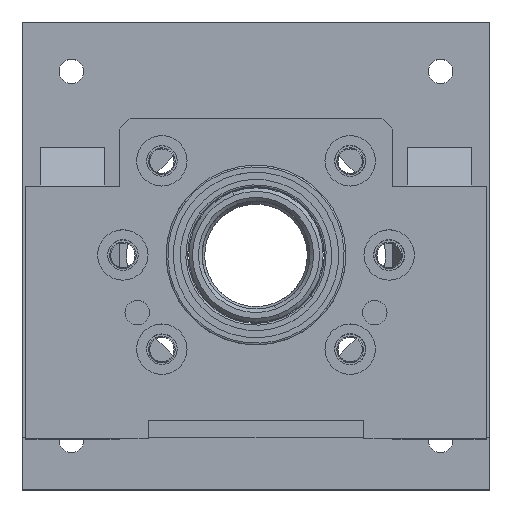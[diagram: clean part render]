
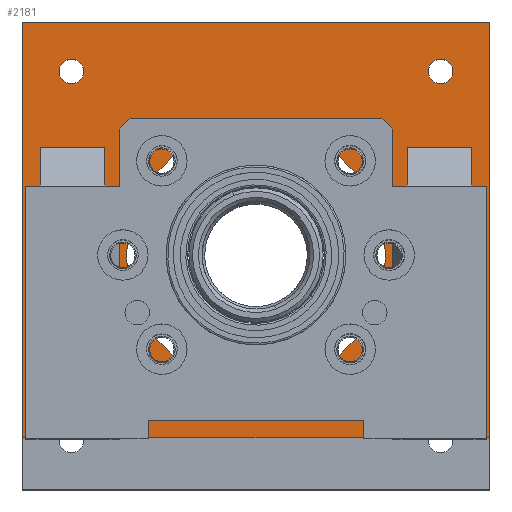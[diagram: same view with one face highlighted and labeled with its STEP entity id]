
A CAD part, top view. The second image highlights one B-rep face of the part: STEP entity #2181.
In plain terms, the highlighted planar face has unit normal (0, 0, 1).
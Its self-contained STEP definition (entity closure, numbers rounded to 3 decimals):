
#1 = EDGE_CURVE ( 'NONE', #3481, #273, #5832, .T. ) ;
#86 = CARTESIAN_POINT ( 'NONE',  ( -51.265, 51.265, 20. ) ) ;
#175 = VERTEX_POINT ( 'NONE', #6333 ) ;
#178 = VECTOR ( 'NONE', #8014, 1000. ) ;
#230 = DIRECTION ( 'NONE',  ( 0., -1., 0. ) ) ;
#250 = VERTEX_POINT ( 'NONE', #8074 ) ;
#273 = VERTEX_POINT ( 'NONE', #2761 ) ;
#284 = DIRECTION ( 'NONE',  ( 0., 0., 1. ) ) ;
#309 = EDGE_CURVE ( 'NONE', #5001, #8623, #7571, .T. ) ;
#316 = ORIENTED_EDGE ( 'NONE', *, *, #3236, .F. ) ;
#356 = CARTESIAN_POINT ( 'NONE',  ( 60., -50.5, 20. ) ) ;
#373 = EDGE_CURVE ( 'NONE', #6790, #6810, #7363, .T. ) ;
#464 = CARTESIAN_POINT ( 'NONE',  ( 47.865, 51.265, 20. ) ) ;
#632 = VERTEX_POINT ( 'NONE', #8566 ) ;
#771 = VECTOR ( 'NONE', #6224, 1000. ) ;
#784 = LINE ( 'NONE', #4125, #4316 ) ;
#790 = DIRECTION ( 'NONE',  ( 1., 0., 0. ) ) ;
#883 = DIRECTION ( 'NONE',  ( 1., 0., 0. ) ) ;
#944 = CARTESIAN_POINT ( 'NONE',  ( -60., 8., 20. ) ) ;
#1001 = DIRECTION ( 'NONE',  ( -1., 0., 0. ) ) ;
#1316 = CARTESIAN_POINT ( 'NONE',  ( -51.265, 51.265, 20. ) ) ;
#1391 = EDGE_CURVE ( 'NONE', #250, #5001, #7346, .T. ) ;
#1400 = CARTESIAN_POINT ( 'NONE',  ( 0., 0., 20. ) ) ;
#1406 = CARTESIAN_POINT ( 'NONE',  ( -42., 30., 20. ) ) ;
#1489 = CARTESIAN_POINT ( 'NONE',  ( -36., 0., 20. ) ) ;
#1504 = DIRECTION ( 'NONE',  ( 0., 1., 0. ) ) ;
#1554 = CARTESIAN_POINT ( 'NONE',  ( -65., 65., 20. ) ) ;
#1603 = FACE_BOUND ( 'NONE', #6589, .T. ) ;
#1684 = CARTESIAN_POINT ( 'NONE',  ( -60., 30., 20. ) ) ;
#1701 = EDGE_CURVE ( 'NONE', #175, #6160, #6999, .T. ) ;
#1832 = AXIS2_PLACEMENT_3D ( 'NONE', #4617, #4014, #8528 ) ;
#1849 = ORIENTED_EDGE ( 'NONE', *, *, #8732, .F. ) ;
#1941 = CARTESIAN_POINT ( 'NONE',  ( -65., 30., 20. ) ) ;
#1957 = VERTEX_POINT ( 'NONE', #5205 ) ;
#1990 = DIRECTION ( 'NONE',  ( 1., 0., 0. ) ) ;
#2032 = CARTESIAN_POINT ( 'NONE',  ( -60., -50.5, 20. ) ) ;
#2042 = EDGE_CURVE ( 'NONE', #273, #3481, #6233, .T. ) ;
#2082 = LINE ( 'NONE', #6863, #5823 ) ;
#2167 = VERTEX_POINT ( 'NONE', #3402 ) ;
#2181 = ADVANCED_FACE ( 'NONE', ( #1603, #3683, #8866, #7229 ), #5527, .T. ) ;
#2297 = LINE ( 'NONE', #944, #178 ) ;
#2298 = AXIS2_PLACEMENT_3D ( 'NONE', #1316, #284, #4513 ) ;
#2301 = EDGE_CURVE ( 'NONE', #4605, #632, #5132, .T. ) ;
#2359 = DIRECTION ( 'NONE',  ( 0., 1., 0. ) ) ;
#2444 = CARTESIAN_POINT ( 'NONE',  ( 0., 0., 20. ) ) ;
#2450 = AXIS2_PLACEMENT_3D ( 'NONE', #6905, #9040, #1990 ) ;
#2455 = ORIENTED_EDGE ( 'NONE', *, *, #7240, .F. ) ;
#2495 = VECTOR ( 'NONE', #2359, 1000. ) ;
#2591 = LINE ( 'NONE', #5236, #8015 ) ;
#2621 = VECTOR ( 'NONE', #230, 1000. ) ;
#2622 = LINE ( 'NONE', #1941, #8045 ) ;
#2643 = LINE ( 'NONE', #7600, #771 ) ;
#2761 = CARTESIAN_POINT ( 'NONE',  ( 36., 0., 20. ) ) ;
#2817 = DIRECTION ( 'NONE',  ( 0., 0., 1. ) ) ;
#2874 = DIRECTION ( 'NONE',  ( 0., 1., 0. ) ) ;
#2903 = EDGE_CURVE ( 'NONE', #6160, #175, #3455, .T. ) ;
#3236 = EDGE_CURVE ( 'NONE', #1957, #4639, #6219, .T. ) ;
#3284 = ORIENTED_EDGE ( 'NONE', *, *, #373, .F. ) ;
#3318 = ORIENTED_EDGE ( 'NONE', *, *, #4945, .F. ) ;
#3385 = EDGE_LOOP ( 'NONE', ( #3284, #9131, #7089, #5989, #1849, #2455, #9093, #316, #7129, #4834, #3791, #5878 ) ) ;
#3402 = CARTESIAN_POINT ( 'NONE',  ( 60., 30., 20. ) ) ;
#3410 = ORIENTED_EDGE ( 'NONE', *, *, #1, .F. ) ;
#3455 = CIRCLE ( 'NONE', #4623, 3.4 ) ;
#3481 = VERTEX_POINT ( 'NONE', #1489 ) ;
#3592 = VECTOR ( 'NONE', #6924, 1000. ) ;
#3612 = VECTOR ( 'NONE', #7202, 1000. ) ;
#3683 = FACE_OUTER_BOUND ( 'NONE', #3385, .T. ) ;
#3735 = ORIENTED_EDGE ( 'NONE', *, *, #2042, .F. ) ;
#3769 = CARTESIAN_POINT ( 'NONE',  ( -65., 65., 20. ) ) ;
#3773 = CARTESIAN_POINT ( 'NONE',  ( -47.865, 51.265, 20. ) ) ;
#3791 = ORIENTED_EDGE ( 'NONE', *, *, #4735, .F. ) ;
#3943 = LINE ( 'NONE', #7147, #7468 ) ;
#4014 = DIRECTION ( 'NONE',  ( 0., 0., 1. ) ) ;
#4125 = CARTESIAN_POINT ( 'NONE',  ( -65., 30., 20. ) ) ;
#4155 = ORIENTED_EDGE ( 'NONE', *, *, #2301, .F. ) ;
#4287 = VERTEX_POINT ( 'NONE', #8006 ) ;
#4316 = VECTOR ( 'NONE', #1001, 1000. ) ;
#4399 = CARTESIAN_POINT ( 'NONE',  ( -65., -50.5, 20. ) ) ;
#4513 = DIRECTION ( 'NONE',  ( 1., 0., 0. ) ) ;
#4605 = VERTEX_POINT ( 'NONE', #3773 ) ;
#4617 = CARTESIAN_POINT ( 'NONE',  ( 51.265, 51.265, 20. ) ) ;
#4623 = AXIS2_PLACEMENT_3D ( 'NONE', #7755, #2817, #7039 ) ;
#4639 = VERTEX_POINT ( 'NONE', #1406 ) ;
#4712 = EDGE_LOOP ( 'NONE', ( #3318, #4155 ) ) ;
#4735 = EDGE_CURVE ( 'NONE', #2167, #6547, #784, .T. ) ;
#4834 = ORIENTED_EDGE ( 'NONE', *, *, #9012, .T. ) ;
#4945 = EDGE_CURVE ( 'NONE', #632, #4605, #8184, .T. ) ;
#5001 = VERTEX_POINT ( 'NONE', #3769 ) ;
#5027 = DIRECTION ( 'NONE',  ( 0., 0., 1. ) ) ;
#5132 = CIRCLE ( 'NONE', #6579, 3.4 ) ;
#5142 = DIRECTION ( 'NONE',  ( 0., 0., 1. ) ) ;
#5205 = CARTESIAN_POINT ( 'NONE',  ( -42., -50.5, 20. ) ) ;
#5236 = CARTESIAN_POINT ( 'NONE',  ( -65., -50.5, 20. ) ) ;
#5362 = VERTEX_POINT ( 'NONE', #1684 ) ;
#5379 = EDGE_LOOP ( 'NONE', ( #3410, #3735 ) ) ;
#5443 = CARTESIAN_POINT ( 'NONE',  ( 42., 30., 20. ) ) ;
#5527 = PLANE ( 'NONE',  #2450 ) ;
#5657 = EDGE_CURVE ( 'NONE', #4287, #1957, #2643, .T. ) ;
#5823 = VECTOR ( 'NONE', #7584, 1000. ) ;
#5832 = CIRCLE ( 'NONE', #7794, 36. ) ;
#5878 = ORIENTED_EDGE ( 'NONE', *, *, #7489, .T. ) ;
#5944 = DIRECTION ( 'NONE',  ( -1., 0., 0. ) ) ;
#5958 = CARTESIAN_POINT ( 'NONE',  ( 65., -50.5, 20. ) ) ;
#5989 = ORIENTED_EDGE ( 'NONE', *, *, #309, .T. ) ;
#6160 = VERTEX_POINT ( 'NONE', #464 ) ;
#6219 = LINE ( 'NONE', #7535, #6449 ) ;
#6224 = DIRECTION ( 'NONE',  ( -1., 0., 0. ) ) ;
#6233 = CIRCLE ( 'NONE', #6394, 36. ) ;
#6274 = ORIENTED_EDGE ( 'NONE', *, *, #2903, .F. ) ;
#6330 = EDGE_CURVE ( 'NONE', #6790, #250, #3943, .T. ) ;
#6333 = CARTESIAN_POINT ( 'NONE',  ( 54.665, 51.265, 20. ) ) ;
#6394 = AXIS2_PLACEMENT_3D ( 'NONE', #2444, #5142, #883 ) ;
#6449 = VECTOR ( 'NONE', #2874, 1000. ) ;
#6528 = EDGE_CURVE ( 'NONE', #4639, #5362, #2622, .T. ) ;
#6547 = VERTEX_POINT ( 'NONE', #5443 ) ;
#6579 = AXIS2_PLACEMENT_3D ( 'NONE', #86, #5027, #790 ) ;
#6589 = EDGE_LOOP ( 'NONE', ( #6274, #8071 ) ) ;
#6790 = VERTEX_POINT ( 'NONE', #5958 ) ;
#6810 = VERTEX_POINT ( 'NONE', #356 ) ;
#6851 = DIRECTION ( 'NONE',  ( -1., 0., 0. ) ) ;
#6863 = CARTESIAN_POINT ( 'NONE',  ( 60., 8., 20. ) ) ;
#6905 = CARTESIAN_POINT ( 'NONE',  ( -65., -65., 20. ) ) ;
#6924 = DIRECTION ( 'NONE',  ( -1., 0., 0. ) ) ;
#6999 = CIRCLE ( 'NONE', #1832, 3.4 ) ;
#7039 = DIRECTION ( 'NONE',  ( 1., 0., 0. ) ) ;
#7089 = ORIENTED_EDGE ( 'NONE', *, *, #1391, .T. ) ;
#7129 = ORIENTED_EDGE ( 'NONE', *, *, #5657, .F. ) ;
#7147 = CARTESIAN_POINT ( 'NONE',  ( 65., 65., 20. ) ) ;
#7202 = DIRECTION ( 'NONE',  ( -1., 0., 0. ) ) ;
#7229 = FACE_BOUND ( 'NONE', #4712, .T. ) ;
#7240 = EDGE_CURVE ( 'NONE', #5362, #8101, #2297, .T. ) ;
#7276 = CARTESIAN_POINT ( 'NONE',  ( 42., 8., 20. ) ) ;
#7289 = CARTESIAN_POINT ( 'NONE',  ( -65., 65., 20. ) ) ;
#7346 = LINE ( 'NONE', #1554, #3592 ) ;
#7363 = LINE ( 'NONE', #8630, #3612 ) ;
#7468 = VECTOR ( 'NONE', #1504, 1000. ) ;
#7489 = EDGE_CURVE ( 'NONE', #2167, #6810, #2082, .T. ) ;
#7535 = CARTESIAN_POINT ( 'NONE',  ( -42., 8., 20. ) ) ;
#7571 = LINE ( 'NONE', #7289, #2621 ) ;
#7584 = DIRECTION ( 'NONE',  ( 0., -1., 0. ) ) ;
#7600 = CARTESIAN_POINT ( 'NONE',  ( -65., -50.5, 20. ) ) ;
#7755 = CARTESIAN_POINT ( 'NONE',  ( 51.265, 51.265, 20. ) ) ;
#7794 = AXIS2_PLACEMENT_3D ( 'NONE', #1400, #8607, #8466 ) ;
#8006 = CARTESIAN_POINT ( 'NONE',  ( 42., -50.5, 20. ) ) ;
#8014 = DIRECTION ( 'NONE',  ( 0., -1., 0. ) ) ;
#8015 = VECTOR ( 'NONE', #5944, 1000. ) ;
#8045 = VECTOR ( 'NONE', #6851, 1000. ) ;
#8071 = ORIENTED_EDGE ( 'NONE', *, *, #1701, .F. ) ;
#8074 = CARTESIAN_POINT ( 'NONE',  ( 65., 65., 20. ) ) ;
#8101 = VERTEX_POINT ( 'NONE', #2032 ) ;
#8120 = LINE ( 'NONE', #7276, #2495 ) ;
#8184 = CIRCLE ( 'NONE', #2298, 3.4 ) ;
#8466 = DIRECTION ( 'NONE',  ( 1., 0., 0. ) ) ;
#8528 = DIRECTION ( 'NONE',  ( 1., 0., 0. ) ) ;
#8566 = CARTESIAN_POINT ( 'NONE',  ( -54.665, 51.265, 20. ) ) ;
#8607 = DIRECTION ( 'NONE',  ( 0., 0., 1. ) ) ;
#8623 = VERTEX_POINT ( 'NONE', #4399 ) ;
#8630 = CARTESIAN_POINT ( 'NONE',  ( -65., -50.5, 20. ) ) ;
#8732 = EDGE_CURVE ( 'NONE', #8101, #8623, #2591, .T. ) ;
#8866 = FACE_BOUND ( 'NONE', #5379, .T. ) ;
#9012 = EDGE_CURVE ( 'NONE', #4287, #6547, #8120, .T. ) ;
#9040 = DIRECTION ( 'NONE',  ( 0., 0., 1. ) ) ;
#9093 = ORIENTED_EDGE ( 'NONE', *, *, #6528, .F. ) ;
#9131 = ORIENTED_EDGE ( 'NONE', *, *, #6330, .T. ) ;
